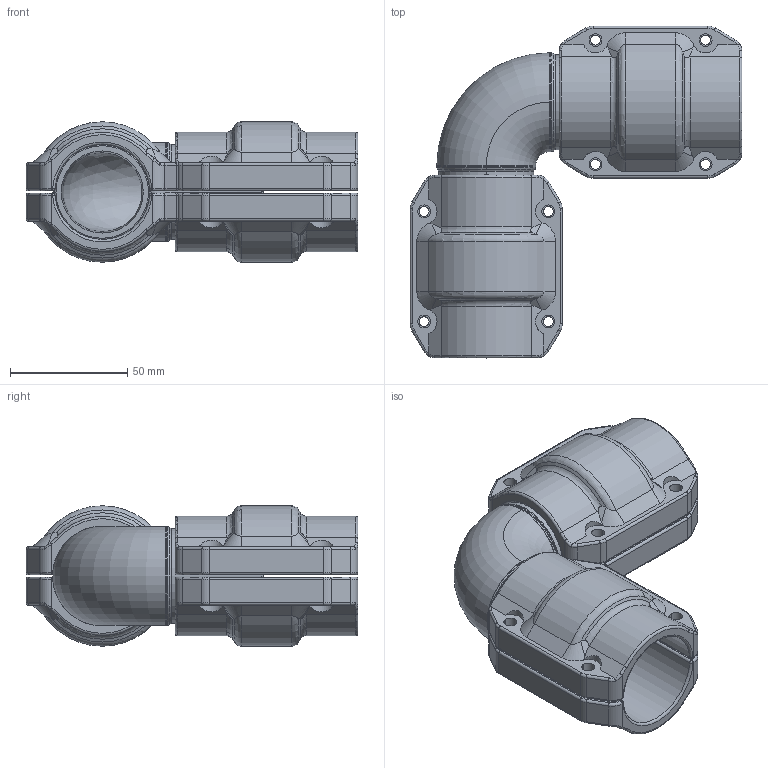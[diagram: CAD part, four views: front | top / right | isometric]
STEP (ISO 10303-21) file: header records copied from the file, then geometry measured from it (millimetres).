
FILE_DESCRIPTION((''),'2;1');
FILE_NAME('2015400399_ASM_6_ASM','2017-05-15T',('Administrator'),(''),'PRO/ENGINEER BY PARAMETRIC TECHNOLOGY CORPORATION, 2009360','PRO/ENGINEER BY PARAMETRIC TECHNOLOGY CORPORATION, 2009360','');
FILE_SCHEMA(('AUTOMOTIVE_DESIGN_CC2 { 1 2 10303 214 -1 1 5 2 }'));
Length unit declared in the file: millimetre
Products named in the file (5): 2015400300_7; 201540020001_1; 201540020000_1; 2015400200_ASM_1_ASM; 2015400399_ASM_6_ASM
Assembly tree (5 placements, depth 3):
  2015400399_ASM_6_ASM
    2015400300_7
    2015400200_ASM_1_ASM  x2
      201540020001_1
      201540020000_1
Bounding box: 141.6 x 141.6 x 59.9 mm (x, y, z)
Volume: 247690 mm3; surface area: 92335.9 mm2
Topology: 5 solids, 5 shells, 463 faces, 1236 edges, 767 vertices
Faces by surface type: cylinder 194, torus 114, plane 74, bspline 49, cone 16, sphere 16
Entity records: 11641 total; most frequent: CARTESIAN_POINT 3300, DIRECTION 1348, ORIENTED_EDGE 1326, PRESENTATION_STYLE_ASSIGNMENT 666, STYLED_ITEM 666, CURVE_STYLE 663, EDGE_CURVE 663, AXIS2_PLACEMENT_3D 577
